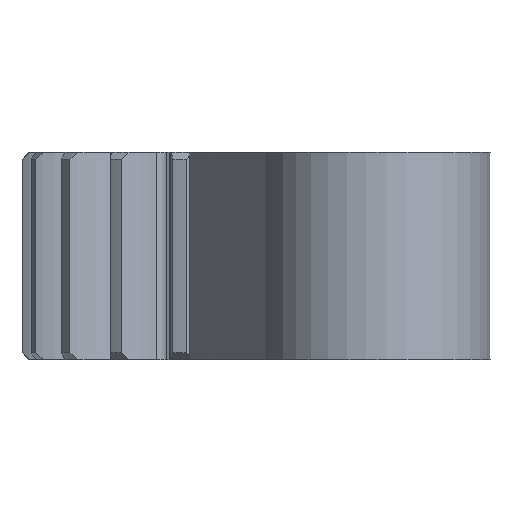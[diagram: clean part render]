
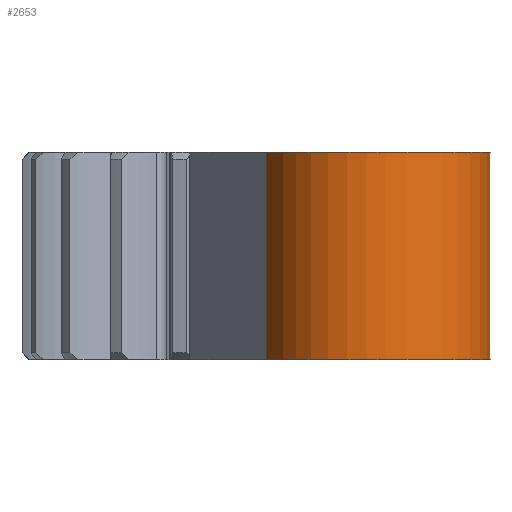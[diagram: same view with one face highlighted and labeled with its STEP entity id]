
A CAD part, front view. The second image highlights one B-rep face of the part: STEP entity #2653.
In plain terms, the highlighted cylindrical face has radius 5.5 mm (diameter 11 mm), a partial arc.
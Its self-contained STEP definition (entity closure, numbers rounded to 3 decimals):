
#172=LINE('',#4857,#312);
#177=LINE('',#4877,#317);
#312=VECTOR('',#3812,10.);
#317=VECTOR('',#3835,10.);
#404=CYLINDRICAL_SURFACE('',#3010,5.5);
#543=FACE_OUTER_BOUND('',#685,.T.);
#685=EDGE_LOOP('',(#2374,#2375,#2376,#2377));
#887=CIRCLE('',#3002,5.5);
#892=CIRCLE('',#3011,5.5);
#1231=VERTEX_POINT('',#4854);
#1232=VERTEX_POINT('',#4856);
#1233=VERTEX_POINT('',#4860);
#1238=VERTEX_POINT('',#4876);
#1640=EDGE_CURVE('',#1232,#1231,#172,.T.);
#1642=EDGE_CURVE('',#1232,#1233,#887,.T.);
#1650=EDGE_CURVE('',#1238,#1233,#177,.T.);
#1652=EDGE_CURVE('',#1238,#1231,#892,.T.);
#2374=ORIENTED_EDGE('',*,*,#1640,.T.);
#2375=ORIENTED_EDGE('',*,*,#1652,.F.);
#2376=ORIENTED_EDGE('',*,*,#1650,.T.);
#2377=ORIENTED_EDGE('',*,*,#1642,.F.);
#2653=ADVANCED_FACE('',(#543),#404,.T.);
#3002=AXIS2_PLACEMENT_3D('',#4861,#3816,#3817);
#3010=AXIS2_PLACEMENT_3D('',#4879,#3837,#3838);
#3011=AXIS2_PLACEMENT_3D('',#4880,#3839,#3840);
#3812=DIRECTION('',(0.,0.,1.));
#3816=DIRECTION('center_axis',(0.,0.,-1.));
#3817=DIRECTION('ref_axis',(0.966,0.259,0.));
#3835=DIRECTION('',(0.,0.,-1.));
#3837=DIRECTION('center_axis',(0.,0.,1.));
#3838=DIRECTION('ref_axis',(0.966,0.259,0.));
#3839=DIRECTION('center_axis',(0.,0.,1.));
#3840=DIRECTION('ref_axis',(0.966,0.259,0.));
#4854=CARTESIAN_POINT('',(147.136,192.188,355.5));
#4856=CARTESIAN_POINT('',(147.136,192.188,345.5));
#4857=CARTESIAN_POINT('',(147.136,192.188,350.5));
#4860=CARTESIAN_POINT('',(136.511,189.34,345.5));
#4861=CARTESIAN_POINT('Origin',(141.824,190.764,345.5));
#4876=CARTESIAN_POINT('',(136.511,189.34,355.5));
#4877=CARTESIAN_POINT('',(136.511,189.34,350.5));
#4879=CARTESIAN_POINT('Origin',(141.824,190.764,350.5));
#4880=CARTESIAN_POINT('Origin',(141.824,190.764,355.5));
